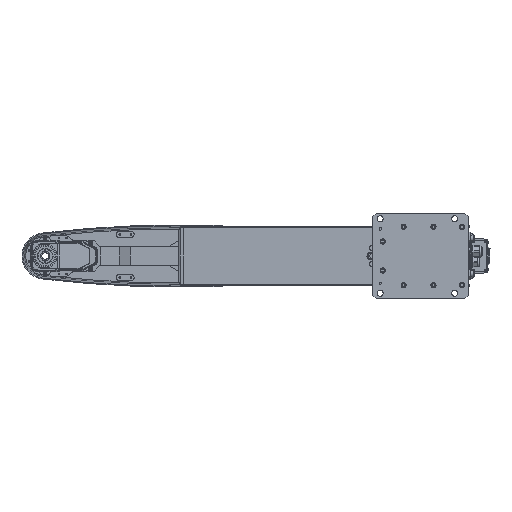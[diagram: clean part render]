
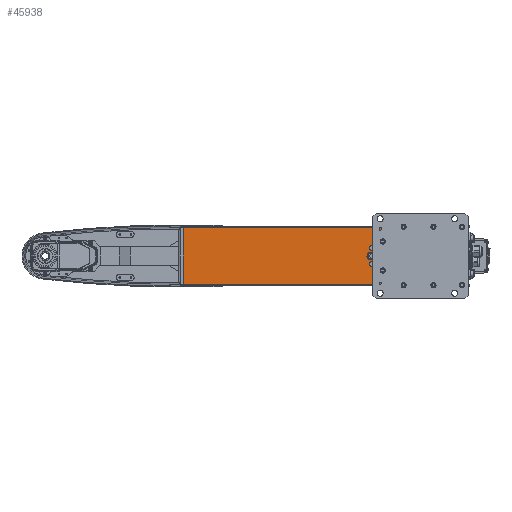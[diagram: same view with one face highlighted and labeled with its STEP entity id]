
A CAD part, front view. The second image highlights one B-rep face of the part: STEP entity #45938.
In plain terms, the highlighted planar face has unit normal (0, -1, 0).
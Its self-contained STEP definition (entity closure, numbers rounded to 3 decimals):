
#280 = DIRECTION ( 'NONE',  ( 0., 1., 0. ) ) ;
#1276 = CARTESIAN_POINT ( 'NONE',  ( 0., 0., -73. ) ) ;
#2823 = DIRECTION ( 'NONE',  ( 1., 0., 0. ) ) ;
#3098 = DIRECTION ( 'NONE',  ( 0., 0., -1. ) ) ;
#4912 = FACE_BOUND ( 'NONE', #78507, .T. ) ;
#5569 = CIRCLE ( 'NONE', #62460, 73. ) ;
#6161 = FACE_BOUND ( 'NONE', #97687, .T. ) ;
#7710 = EDGE_CURVE ( 'NONE', #113181, #96206, #5569, .T. ) ;
#8432 = DIRECTION ( 'NONE',  ( 0., 0., 1. ) ) ;
#10283 = ORIENTED_EDGE ( 'NONE', *, *, #65359, .F. ) ;
#10592 = VERTEX_POINT ( 'NONE', #98074 ) ;
#12323 = ORIENTED_EDGE ( 'NONE', *, *, #46621, .T. ) ;
#13211 = EDGE_CURVE ( 'NONE', #96206, #113181, #116605, .T. ) ;
#13263 = CARTESIAN_POINT ( 'NONE',  ( -123.1, 0., -21.706 ) ) ;
#13365 = EDGE_CURVE ( 'NONE', #52993, #84559, #41411, .T. ) ;
#16352 = FACE_BOUND ( 'NONE', #99054, .T. ) ;
#18076 = ORIENTED_EDGE ( 'NONE', *, *, #118157, .T. ) ;
#18911 = CIRCLE ( 'NONE', #79824, 6. ) ;
#19517 = ORIENTED_EDGE ( 'NONE', *, *, #83349, .T. ) ;
#19622 = AXIS2_PLACEMENT_3D ( 'NONE', #13263, #101342, #91799 ) ;
#21648 = CARTESIAN_POINT ( 'NONE',  ( 79.5, 0., -76. ) ) ;
#22800 = DIRECTION ( 'NONE',  ( 0., 1., 0. ) ) ;
#25817 = AXIS2_PLACEMENT_3D ( 'NONE', #71489, #81014, #65557 ) ;
#27079 = VERTEX_POINT ( 'NONE', #85411 ) ;
#28249 = DIRECTION ( 'NONE',  ( 0., 1., 0. ) ) ;
#28733 = DIRECTION ( 'NONE',  ( 0., 1., 0. ) ) ;
#29164 = EDGE_LOOP ( 'NONE', ( #71587, #88402 ) ) ;
#33801 = DIRECTION ( 'NONE',  ( 0., 0., 1. ) ) ;
#35251 = CIRCLE ( 'NONE', #112499, 6. ) ;
#37382 = AXIS2_PLACEMENT_3D ( 'NONE', #67544, #96222, #115273 ) ;
#39878 = VERTEX_POINT ( 'NONE', #70110 ) ;
#41411 = LINE ( 'NONE', #21648, #76001 ) ;
#43737 = PLANE ( 'NONE',  #94819 ) ;
#44031 = LINE ( 'NONE', #53592, #84929 ) ;
#44196 = VERTEX_POINT ( 'NONE', #116952 ) ;
#45938 = ADVANCED_FACE ( 'NONE', ( #93375, #92125, #4912, #6161, #16352 ), #43737, .F. ) ;
#46089 = CARTESIAN_POINT ( 'NONE',  ( -125., 0., 0. ) ) ;
#46185 = VERTEX_POINT ( 'NONE', #102132 ) ;
#46585 = DIRECTION ( 'NONE',  ( 0., 0., -1. ) ) ;
#46621 = EDGE_CURVE ( 'NONE', #10592, #27079, #105173, .T. ) ;
#49285 = EDGE_LOOP ( 'NONE', ( #19517, #84284, #10283, #51249 ) ) ;
#50666 = ORIENTED_EDGE ( 'NONE', *, *, #82148, .T. ) ;
#51249 = ORIENTED_EDGE ( 'NONE', *, *, #13365, .F. ) ;
#51845 = DIRECTION ( 'NONE',  ( 0., 0., 1. ) ) ;
#52993 = VERTEX_POINT ( 'NONE', #68356 ) ;
#53096 = CARTESIAN_POINT ( 'NONE',  ( 0., 0., 0. ) ) ;
#53424 = CARTESIAN_POINT ( 'NONE',  ( -629.5, 0., -76. ) ) ;
#53592 = CARTESIAN_POINT ( 'NONE',  ( -629.5, 0., -76. ) ) ;
#55181 = CARTESIAN_POINT ( 'NONE',  ( -621.5, 0., -63.696 ) ) ;
#55207 = DIRECTION ( 'NONE',  ( 0., 0., 1. ) ) ;
#56404 = CARTESIAN_POINT ( 'NONE',  ( -629.5, 0., 76. ) ) ;
#59482 = LINE ( 'NONE', #70259, #87545 ) ;
#62460 = AXIS2_PLACEMENT_3D ( 'NONE', #53096, #121162, #51845 ) ;
#65359 = EDGE_CURVE ( 'NONE', #84559, #74105, #44031, .T. ) ;
#65557 = DIRECTION ( 'NONE',  ( 0., 0., 1. ) ) ;
#67544 = CARTESIAN_POINT ( 'NONE',  ( 0., 0., 0. ) ) ;
#68152 = ORIENTED_EDGE ( 'NONE', *, *, #104343, .T. ) ;
#68356 = CARTESIAN_POINT ( 'NONE',  ( 79.5, 0., -76. ) ) ;
#68663 = VERTEX_POINT ( 'NONE', #94846 ) ;
#70110 = CARTESIAN_POINT ( 'NONE',  ( -123.1, 0., -15.706 ) ) ;
#70259 = CARTESIAN_POINT ( 'NONE',  ( -629.5, 0., 76. ) ) ;
#70436 = EDGE_CURVE ( 'NONE', #74105, #44196, #59482, .T. ) ;
#71489 = CARTESIAN_POINT ( 'NONE',  ( -125., 0., 0. ) ) ;
#71587 = ORIENTED_EDGE ( 'NONE', *, *, #122377, .T. ) ;
#74105 = VERTEX_POINT ( 'NONE', #56404 ) ;
#74475 = CIRCLE ( 'NONE', #19622, 6. ) ;
#75273 = CARTESIAN_POINT ( 'NONE',  ( 79.5, 0., -76. ) ) ;
#76001 = VECTOR ( 'NONE', #98111, 1000. ) ;
#77879 = AXIS2_PLACEMENT_3D ( 'NONE', #46089, #28249, #95082 ) ;
#78507 = EDGE_LOOP ( 'NONE', ( #18076, #50666 ) ) ;
#78574 = VECTOR ( 'NONE', #8432, 1000. ) ;
#78582 = CIRCLE ( 'NONE', #25817, 10.5 ) ;
#79824 = AXIS2_PLACEMENT_3D ( 'NONE', #87440, #280, #55207 ) ;
#81014 = DIRECTION ( 'NONE',  ( 0., 1., 0. ) ) ;
#82148 = EDGE_CURVE ( 'NONE', #46185, #95061, #78582, .T. ) ;
#82509 = DIRECTION ( 'NONE',  ( 1., 0., 0. ) ) ;
#83349 = EDGE_CURVE ( 'NONE', #52993, #44196, #95656, .T. ) ;
#84284 = ORIENTED_EDGE ( 'NONE', *, *, #70436, .F. ) ;
#84559 = VERTEX_POINT ( 'NONE', #53424 ) ;
#84929 = VECTOR ( 'NONE', #33801, 1000. ) ;
#85411 = CARTESIAN_POINT ( 'NONE',  ( -123.1, 0., 27.706 ) ) ;
#86918 = ORIENTED_EDGE ( 'NONE', *, *, #7710, .T. ) ;
#87440 = CARTESIAN_POINT ( 'NONE',  ( -123.1, 0., 21.706 ) ) ;
#87545 = VECTOR ( 'NONE', #2823, 1000. ) ;
#88053 = CIRCLE ( 'NONE', #77879, 10.5 ) ;
#88402 = ORIENTED_EDGE ( 'NONE', *, *, #114040, .T. ) ;
#90288 = CARTESIAN_POINT ( 'NONE',  ( -123.1, 0., -21.706 ) ) ;
#90983 = ORIENTED_EDGE ( 'NONE', *, *, #13211, .T. ) ;
#91799 = DIRECTION ( 'NONE',  ( 0., 0., 1. ) ) ;
#92125 = FACE_BOUND ( 'NONE', #29164, .T. ) ;
#93375 = FACE_OUTER_BOUND ( 'NONE', #49285, .T. ) ;
#94001 = DIRECTION ( 'NONE',  ( 0., 1., 0. ) ) ;
#94819 = AXIS2_PLACEMENT_3D ( 'NONE', #55181, #94001, #82509 ) ;
#94846 = CARTESIAN_POINT ( 'NONE',  ( -123.1, 0., -27.706 ) ) ;
#95061 = VERTEX_POINT ( 'NONE', #106089 ) ;
#95082 = DIRECTION ( 'NONE',  ( 0., 0., -1. ) ) ;
#95592 = CARTESIAN_POINT ( 'NONE',  ( -123.1, 0., 21.706 ) ) ;
#95656 = LINE ( 'NONE', #75273, #78574 ) ;
#96206 = VERTEX_POINT ( 'NONE', #1276 ) ;
#96222 = DIRECTION ( 'NONE',  ( 0., 1., 0. ) ) ;
#96929 = CARTESIAN_POINT ( 'NONE',  ( 0., 0., 73. ) ) ;
#97687 = EDGE_LOOP ( 'NONE', ( #86918, #90983 ) ) ;
#98074 = CARTESIAN_POINT ( 'NONE',  ( -123.1, 0., 15.706 ) ) ;
#98111 = DIRECTION ( 'NONE',  ( -1., 0., 0. ) ) ;
#99054 = EDGE_LOOP ( 'NONE', ( #68152, #12323 ) ) ;
#99123 = AXIS2_PLACEMENT_3D ( 'NONE', #95592, #28733, #46585 ) ;
#101342 = DIRECTION ( 'NONE',  ( 0., 1., 0. ) ) ;
#102132 = CARTESIAN_POINT ( 'NONE',  ( -125., 0., 10.5 ) ) ;
#104343 = EDGE_CURVE ( 'NONE', #27079, #10592, #18911, .T. ) ;
#105173 = CIRCLE ( 'NONE', #99123, 6. ) ;
#106089 = CARTESIAN_POINT ( 'NONE',  ( -125., 0., -10.5 ) ) ;
#112499 = AXIS2_PLACEMENT_3D ( 'NONE', #90288, #22800, #3098 ) ;
#113181 = VERTEX_POINT ( 'NONE', #96929 ) ;
#114040 = EDGE_CURVE ( 'NONE', #68663, #39878, #35251, .T. ) ;
#115273 = DIRECTION ( 'NONE',  ( 0., 0., -1. ) ) ;
#116605 = CIRCLE ( 'NONE', #37382, 73. ) ;
#116952 = CARTESIAN_POINT ( 'NONE',  ( 79.5, 0., 76. ) ) ;
#118157 = EDGE_CURVE ( 'NONE', #95061, #46185, #88053, .T. ) ;
#121162 = DIRECTION ( 'NONE',  ( 0., 1., 0. ) ) ;
#122377 = EDGE_CURVE ( 'NONE', #39878, #68663, #74475, .T. ) ;
